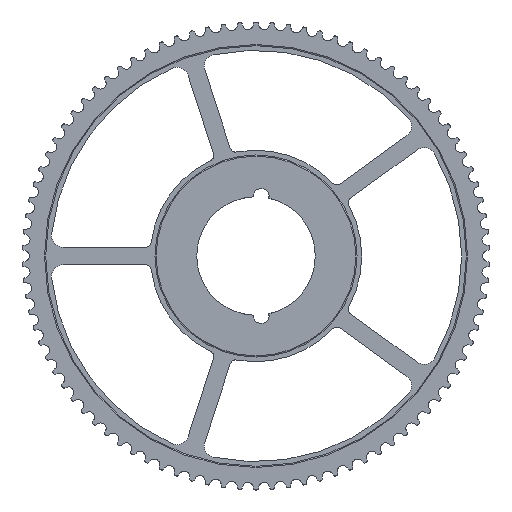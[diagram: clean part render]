
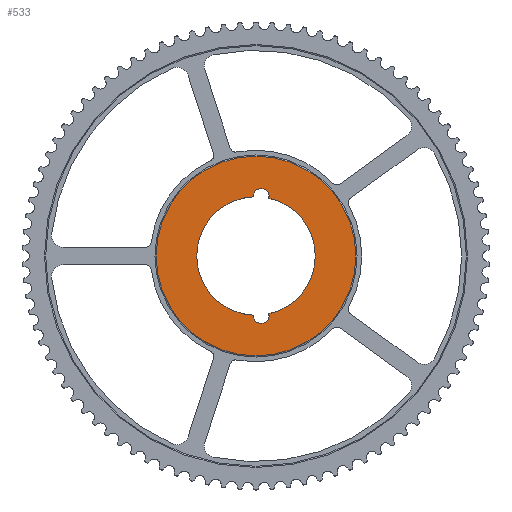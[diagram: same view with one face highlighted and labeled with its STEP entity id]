
A CAD part, left-side view. The second image highlights one B-rep face of the part: STEP entity #533.
In plain terms, the highlighted planar face has unit normal (-1, 0, 0).
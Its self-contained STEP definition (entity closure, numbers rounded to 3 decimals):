
#533 = ADVANCED_FACE( '', ( #1604, #1605 ), #1606, .T. );
#1604 = FACE_BOUND( '', #2828, .T. );
#1605 = FACE_OUTER_BOUND( '', #2829, .T. );
#1606 = PLANE( '', #2830 );
#2828 = EDGE_LOOP( '', ( #6898, #6899, #6900, #6901 ) );
#2829 = EDGE_LOOP( '', ( #6902 ) );
#2830 = AXIS2_PLACEMENT_3D( '', #6903, #6904, #6905 );
#6898 = ORIENTED_EDGE( '', *, *, #10048, .F. );
#6899 = ORIENTED_EDGE( '', *, *, #10049, .T. );
#6900 = ORIENTED_EDGE( '', *, *, #10050, .F. );
#6901 = ORIENTED_EDGE( '', *, *, #10051, .T. );
#6902 = ORIENTED_EDGE( '', *, *, #10052, .F. );
#6903 = CARTESIAN_POINT( '', ( 9.5, 85., 0. ) );
#6904 = DIRECTION( '', ( -1., 0., 0. ) );
#6905 = DIRECTION( '', ( 0., 0., 1. ) );
#10048 = EDGE_CURVE( '', #12952, #12953, #12954, .T. );
#10049 = EDGE_CURVE( '', #12952, #12955, #12956, .T. );
#10050 = EDGE_CURVE( '', #12957, #12955, #12958, .T. );
#10051 = EDGE_CURVE( '', #12957, #12953, #12959, .T. );
#10052 = EDGE_CURVE( '', #12960, #12960, #12961, .T. );
#12952 = VERTEX_POINT( '', #16839 );
#12953 = VERTEX_POINT( '', #16840 );
#12954 = CIRCLE( '', #16841, 6.75 );
#12955 = VERTEX_POINT( '', #16842 );
#12956 = CIRCLE( '', #16843, 50.434 );
#12957 = VERTEX_POINT( '', #16844 );
#12958 = CIRCLE( '', #16845, 6.75 );
#12959 = CIRCLE( '', #16846, 50.434 );
#12960 = VERTEX_POINT( '', #16847 );
#12961 = CIRCLE( '', #16848, 85. );
#16839 = CARTESIAN_POINT( '', ( 9.5, 2.309, -50.381 ) );
#16840 = CARTESIAN_POINT( '', ( 9.5, -10.99, -49.222 ) );
#16841 = AXIS2_PLACEMENT_3D( '', #20080, #20081, #20082 );
#16842 = CARTESIAN_POINT( '', ( 9.5, 2.309, 50.381 ) );
#16843 = AXIS2_PLACEMENT_3D( '', #20083, #20084, #20085 );
#16844 = CARTESIAN_POINT( '', ( 9.5, -10.99, 49.222 ) );
#16845 = AXIS2_PLACEMENT_3D( '', #20086, #20087, #20088 );
#16846 = AXIS2_PLACEMENT_3D( '', #20089, #20090, #20091 );
#16847 = CARTESIAN_POINT( '', ( 9.5, 0., -85. ) );
#16848 = AXIS2_PLACEMENT_3D( '', #20092, #20093, #20094 );
#20080 = CARTESIAN_POINT( '', ( 9.5, -4.428, -50.8 ) );
#20081 = DIRECTION( '', ( -1., 0., 0. ) );
#20082 = DIRECTION( '', ( 0., 0., 1. ) );
#20083 = CARTESIAN_POINT( '', ( 9.5, 0., 0. ) );
#20084 = DIRECTION( '', ( 1., 0., 0. ) );
#20085 = DIRECTION( '', ( 0., 0., -1. ) );
#20086 = CARTESIAN_POINT( '', ( 9.5, -4.428, 50.8 ) );
#20087 = DIRECTION( '', ( -1., 0., 0. ) );
#20088 = DIRECTION( '', ( 0., 0., 1. ) );
#20089 = CARTESIAN_POINT( '', ( 9.5, 0., 0. ) );
#20090 = DIRECTION( '', ( 1., 0., 0. ) );
#20091 = DIRECTION( '', ( 0., 0., -1. ) );
#20092 = CARTESIAN_POINT( '', ( 9.5, 0., 0. ) );
#20093 = DIRECTION( '', ( 1., 0., 0. ) );
#20094 = DIRECTION( '', ( 0., 0., -1. ) );
